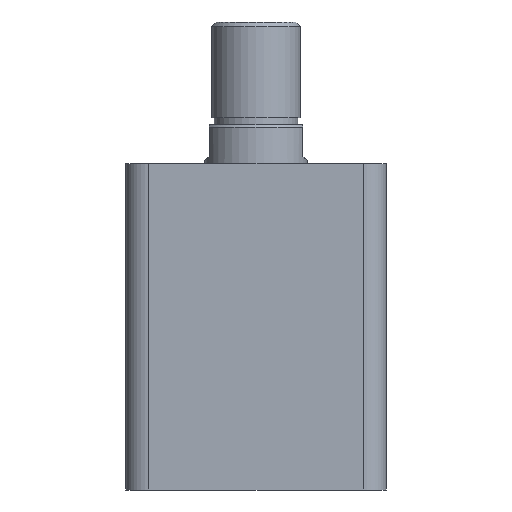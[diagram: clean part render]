
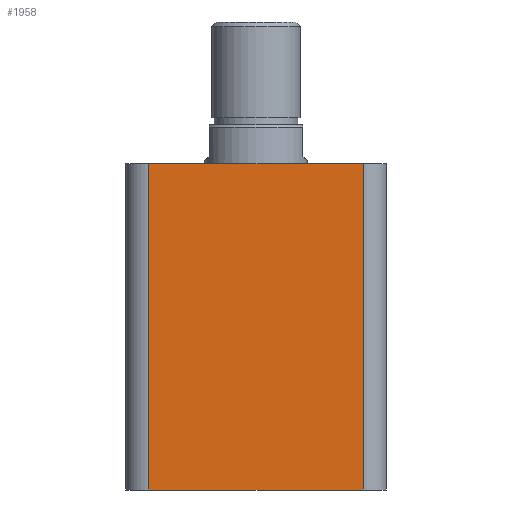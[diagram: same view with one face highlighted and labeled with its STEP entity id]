
A CAD part, front view. The second image highlights one B-rep face of the part: STEP entity #1958.
In plain terms, the highlighted planar face has unit normal (0, -1, 0).
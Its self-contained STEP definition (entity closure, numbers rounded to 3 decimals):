
#148 = CARTESIAN_POINT ( 'NONE',  ( 47., -57., 143. ) ) ;
#158 = CARTESIAN_POINT ( 'NONE',  ( -57., -57., 0. ) ) ;
#159 = DIRECTION ( 'NONE',  ( 1., 0., 0. ) ) ;
#160 = DIRECTION ( 'NONE',  ( 0., 0., 1. ) ) ;
#161 = CARTESIAN_POINT ( 'NONE',  ( -57., -57., 143. ) ) ;
#162 = DIRECTION ( 'NONE',  ( 1., 0., 0. ) ) ;
#163 = CARTESIAN_POINT ( 'NONE',  ( -47., -57., 143. ) ) ;
#164 = DIRECTION ( 'NONE',  ( 0., 0., -1. ) ) ;
#292 = CARTESIAN_POINT ( 'NONE',  ( 47., -57., 0. ) ) ;
#293 = CARTESIAN_POINT ( 'NONE',  ( -47., -57., 143. ) ) ;
#294 = CARTESIAN_POINT ( 'NONE',  ( 47., -57., 143. ) ) ;
#1003 = CARTESIAN_POINT ( 'NONE',  ( -57., -57., 143. ) ) ;
#1011 = PLANE ( 'NONE',  #1660 ) ;
#1013 = DIRECTION ( 'NONE',  ( 0., 1., 0. ) ) ;
#1014 = DIRECTION ( 'NONE',  ( 0., 0., 1. ) ) ;
#1120 = CARTESIAN_POINT ( 'NONE',  ( -47., -57., 0. ) ) ;
#1168 = EDGE_LOOP ( 'NONE', ( #2709, #2710, #2711, #2712 ) ) ;
#1358 = LINE ( 'NONE', #148, #1369 ) ;
#1364 = LINE ( 'NONE', #158, #1367 ) ;
#1367 = VECTOR ( 'NONE', #159, 1000. ) ;
#1368 = LINE ( 'NONE', #161, #1371 ) ;
#1369 = VECTOR ( 'NONE', #160, 1000. ) ;
#1370 = LINE ( 'NONE', #163, #1373 ) ;
#1371 = VECTOR ( 'NONE', #162, 1000. ) ;
#1373 = VECTOR ( 'NONE', #164, 1000. ) ;
#1438 = FACE_OUTER_BOUND ( 'NONE', #1168, .T. ) ;
#1660 = AXIS2_PLACEMENT_3D ( 'NONE', #1003, #1013, #1014 ) ;
#1883 = EDGE_CURVE ( 'NONE', #2492, #2582, #1364, .T. ) ;
#1884 = EDGE_CURVE ( 'NONE', #2582, #2584, #1358, .T. ) ;
#1885 = EDGE_CURVE ( 'NONE', #2583, #2584, #1368, .T. ) ;
#1886 = EDGE_CURVE ( 'NONE', #2583, #2492, #1370, .T. ) ;
#1958 = ADVANCED_FACE ( 'NONE', ( #1438 ), #1011, .F. ) ;
#2492 = VERTEX_POINT ( 'NONE', #1120 ) ;
#2582 = VERTEX_POINT ( 'NONE', #292 ) ;
#2583 = VERTEX_POINT ( 'NONE', #293 ) ;
#2584 = VERTEX_POINT ( 'NONE', #294 ) ;
#2709 = ORIENTED_EDGE ( 'NONE', *, *, #1883, .T. ) ;
#2710 = ORIENTED_EDGE ( 'NONE', *, *, #1884, .T. ) ;
#2711 = ORIENTED_EDGE ( 'NONE', *, *, #1885, .F. ) ;
#2712 = ORIENTED_EDGE ( 'NONE', *, *, #1886, .T. ) ;
